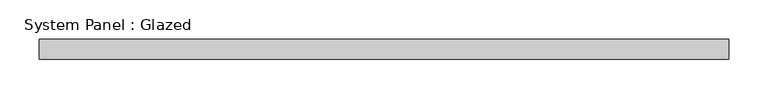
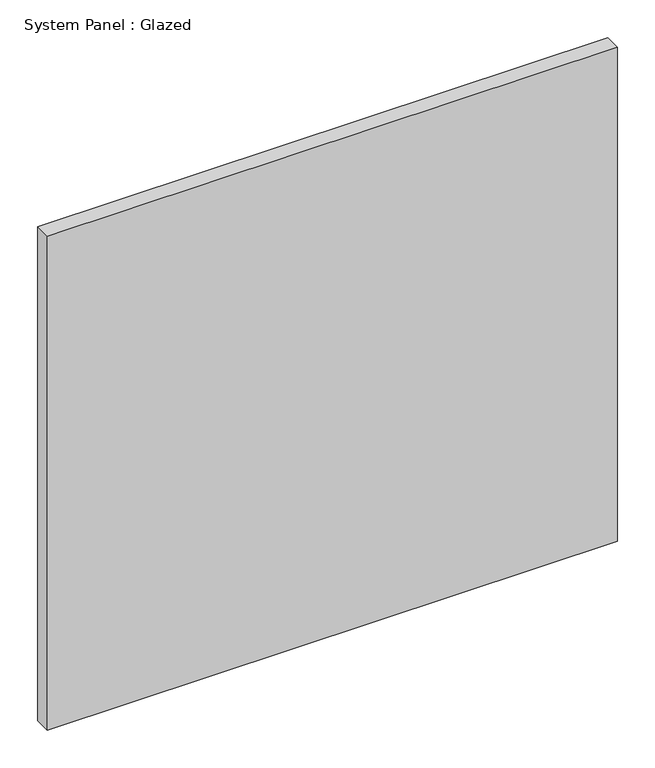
"""IFC4 building model written with IfcOpenShell, lengths in millimetres: plate geometry, System Panel : Glazed."""

from ifc_helpers import new_model, si_unit, origin, origin_with_axes, place, context, project, spatial, polyline, outline, extrude, source, transform, mapped, element, save


def system_panel_glazed_3cdeccce(model_context):
    return source(origin(), model_context, "Body", "SweptSolid", [
        extrude(outline(polyline([(438.15, 19.05), (-438.15, 19.05), (-438.15, 44.45), (438.15, 44.45), (438.15, 19.05)])), origin_with_axes(), (0.0, 0.0, 1.0), 802.4190025),
    ])


if __name__ == "__main__":
    model = new_model("IFC4")
    model_context = context("Model", 3, world=origin())
    ifc_project = project(units=[si_unit("LENGTHUNIT", "METRE", prefix="MILLI")], contexts=[model_context])
    site = spatial("IfcSite", under=ifc_project)
    building = spatial("IfcBuilding", under=site)
    placement = place(None, origin())
    system_panel_glazed_shape = system_panel_glazed_3cdeccce(model_context)
    element("IfcPlate", 1, ObjectType="System Panel : Glazed", at=placement, inside=building, context=model_context, shape_type="MappedRepresentation", body=[
        mapped(system_panel_glazed_shape, transform((0.0, 0.0, 0.0), x_axis=(1.0, 0.0, 0.0), y_axis=(0.0, 1.0, 0.0), z_axis=(0.0, 0.0, 1.0))),
    ])
    save(model, "model.ifc")
